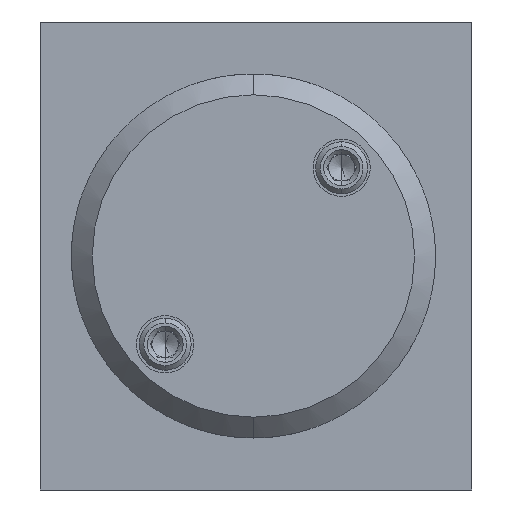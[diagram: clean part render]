
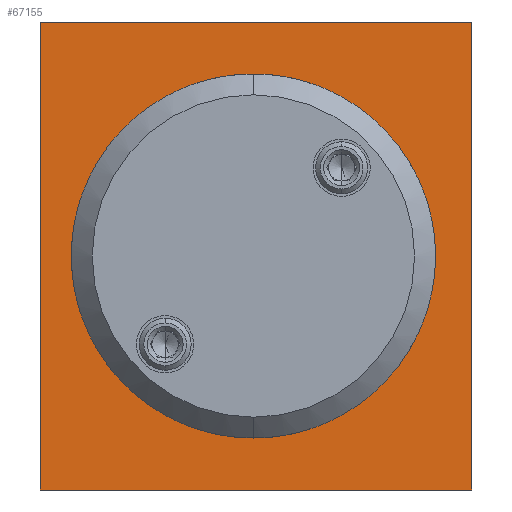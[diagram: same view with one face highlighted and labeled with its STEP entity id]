
A CAD part, left-side view. The second image highlights one B-rep face of the part: STEP entity #67155.
In plain terms, the highlighted planar face has unit normal (-1, 0, 0).
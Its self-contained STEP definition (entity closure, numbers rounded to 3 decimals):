
#1466 = CARTESIAN_POINT ( 'NONE',  ( 0., -20.75, 22.5 ) ) ;
#2093 = DIRECTION ( 'NONE',  ( 0., -1., 0. ) ) ;
#2490 = VECTOR ( 'NONE', #2093, 1000. ) ;
#3079 = CIRCLE ( 'NONE', #96173, 16. ) ;
#3265 = VERTEX_POINT ( 'NONE', #77748 ) ;
#5325 = DIRECTION ( 'NONE',  ( 0., 1., 0. ) ) ;
#5414 = VERTEX_POINT ( 'NONE', #14367 ) ;
#6566 = VERTEX_POINT ( 'NONE', #77079 ) ;
#6574 = VERTEX_POINT ( 'NONE', #6736 ) ;
#6736 = CARTESIAN_POINT ( 'NONE',  ( 0., -20.75, -22.5 ) ) ;
#10330 = DIRECTION ( 'NONE',  ( 0., 0., -1. ) ) ;
#14367 = CARTESIAN_POINT ( 'NONE',  ( 0., -15.75, 0. ) ) ;
#15119 = FACE_BOUND ( 'NONE', #79436, .T. ) ;
#15983 = LINE ( 'NONE', #1466, #103776 ) ;
#17058 = VERTEX_POINT ( 'NONE', #27313 ) ;
#23302 = EDGE_LOOP ( 'NONE', ( #31352, #32746, #35641, #42681 ) ) ;
#24332 = ORIENTED_EDGE ( 'NONE', *, *, #82944, .F. ) ;
#24664 = ORIENTED_EDGE ( 'NONE', *, *, #71118, .F. ) ;
#26470 = CARTESIAN_POINT ( 'NONE',  ( 0., 20.75, -22.5 ) ) ;
#26519 = VERTEX_POINT ( 'NONE', #107092 ) ;
#27313 = CARTESIAN_POINT ( 'NONE',  ( 0., 20.75, 22.5 ) ) ;
#30996 = LINE ( 'NONE', #49172, #77702 ) ;
#31352 = ORIENTED_EDGE ( 'NONE', *, *, #81868, .F. ) ;
#32746 = ORIENTED_EDGE ( 'NONE', *, *, #81564, .F. ) ;
#35353 = DIRECTION ( 'NONE',  ( 0., 0., 1. ) ) ;
#35641 = ORIENTED_EDGE ( 'NONE', *, *, #80871, .F. ) ;
#35735 = FACE_OUTER_BOUND ( 'NONE', #23302, .T. ) ;
#42681 = ORIENTED_EDGE ( 'NONE', *, *, #80173, .F. ) ;
#49024 = DIRECTION ( 'NONE',  ( -1., 0., 0. ) ) ;
#49172 = CARTESIAN_POINT ( 'NONE',  ( 0., -20.75, -22.5 ) ) ;
#50805 = DIRECTION ( 'NONE',  ( -1., 0., 0. ) ) ;
#60291 = AXIS2_PLACEMENT_3D ( 'NONE', #101493, #49024, #110178 ) ;
#67155 = ADVANCED_FACE ( 'NONE', ( #15119, #35735 ), #105058, .T. ) ;
#71118 = EDGE_CURVE ( 'NONE', #26519, #5414, #105074, .T. ) ;
#72714 = LINE ( 'NONE', #107196, #2490 ) ;
#77079 = CARTESIAN_POINT ( 'NONE',  ( 0., -20.75, 22.5 ) ) ;
#77702 = VECTOR ( 'NONE', #5325, 1000. ) ;
#77748 = CARTESIAN_POINT ( 'NONE',  ( 0., 20.75, -22.5 ) ) ;
#79436 = EDGE_LOOP ( 'NONE', ( #24332, #24664 ) ) ;
#80173 = EDGE_CURVE ( 'NONE', #3265, #17058, #86880, .T. ) ;
#80871 = EDGE_CURVE ( 'NONE', #17058, #6566, #72714, .T. ) ;
#81564 = EDGE_CURVE ( 'NONE', #6566, #6574, #15983, .T. ) ;
#81868 = EDGE_CURVE ( 'NONE', #6574, #3265, #30996, .T. ) ;
#82944 = EDGE_CURVE ( 'NONE', #5414, #26519, #3079, .T. ) ;
#83347 = AXIS2_PLACEMENT_3D ( 'NONE', #26470, #87951, #35353 ) ;
#84189 = VECTOR ( 'NONE', #113059, 1000. ) ;
#86880 = LINE ( 'NONE', #104337, #84189 ) ;
#87951 = DIRECTION ( 'NONE',  ( -1., 0., 0. ) ) ;
#96173 = AXIS2_PLACEMENT_3D ( 'NONE', #103248, #50805, #111973 ) ;
#101493 = CARTESIAN_POINT ( 'NONE',  ( 0., 0.25, 0. ) ) ;
#103248 = CARTESIAN_POINT ( 'NONE',  ( 0., 0.25, 0. ) ) ;
#103776 = VECTOR ( 'NONE', #10330, 1000. ) ;
#104337 = CARTESIAN_POINT ( 'NONE',  ( 0., 20.75, 22.5 ) ) ;
#105058 = PLANE ( 'NONE',  #83347 ) ;
#105074 = CIRCLE ( 'NONE', #60291, 16. ) ;
#107092 = CARTESIAN_POINT ( 'NONE',  ( 0., 16.25, 0. ) ) ;
#107196 = CARTESIAN_POINT ( 'NONE',  ( 0., -20.75, 22.5 ) ) ;
#110178 = DIRECTION ( 'NONE',  ( 0., -1., 0. ) ) ;
#111973 = DIRECTION ( 'NONE',  ( 0., -1., 0. ) ) ;
#113059 = DIRECTION ( 'NONE',  ( 0., 0., 1. ) ) ;
